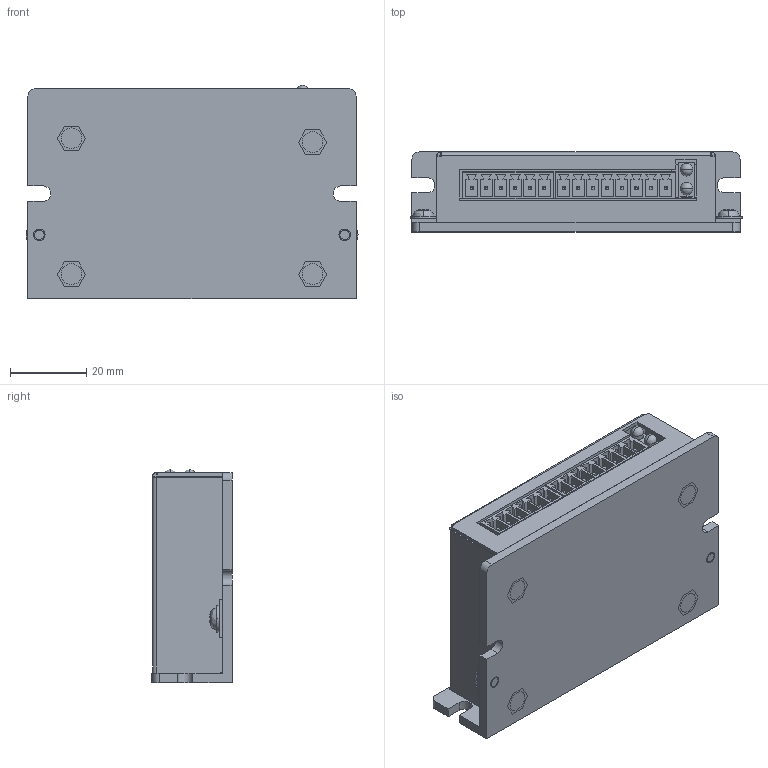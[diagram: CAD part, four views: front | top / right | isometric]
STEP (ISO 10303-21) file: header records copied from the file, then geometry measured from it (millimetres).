
FILE_DESCRIPTION((''),'2;1');
FILE_NAME('0-YKD2204M_ASM','2022-01-07T16:59:28',('Admin'),(''),'CREO PARAMETRIC BY PTC INC, 2020074','CREO PARAMETRIC BY PTC INC, 2020074','');
FILE_SCHEMA(('CONFIG_CONTROL_DESIGN'));
Length unit declared in the file: millimetre
Products named in the file (12): YKD2204M80101; BSO-3_5M3-7-ZC; YKD2204M60101_ASM; YKD2204MPCB; LED-3; 15EDGRC-3_81-4PIN; 15EDGRC-3_81-6PIN; EPS106A-8P; YKD2204MPCBA_ASM; YKD2204PR-UP; GBT9074_1_M3X4; 0-YKD2204M_ASM
Assembly tree (15 placements, depth 3):
  0-YKD2204M_ASM
    YKD2204M60101_ASM
      YKD2204M80101
      BSO-3_5M3-7-ZC  x4
    YKD2204MPCBA_ASM
      YKD2204MPCB
      LED-3
      15EDGRC-3_81-4PIN
      15EDGRC-3_81-6PIN
      EPS106A-8P
    YKD2204PR-UP
    GBT9074_1_M3X4  x2
Bounding box: 87 x 21 x 55.85 mm (x, y, z)
Volume: 31130.5 mm3; surface area: 42387.1 mm2
Topology: 13 solids, 13 shells, 795 faces, 1960 edges, 1264 vertices
Faces by surface type: plane 602, cylinder 181, sphere 8, bspline 4
Entity records: 21886 total; most frequent: CARTESIAN_POINT 3790, DIRECTION 3698, ORIENTED_EDGE 3608, EDGE_CURVE 1804, VECTOR 1438, LINE 1438, VERTEX_POINT 1166, AXIS2_PLACEMENT_3D 1130
